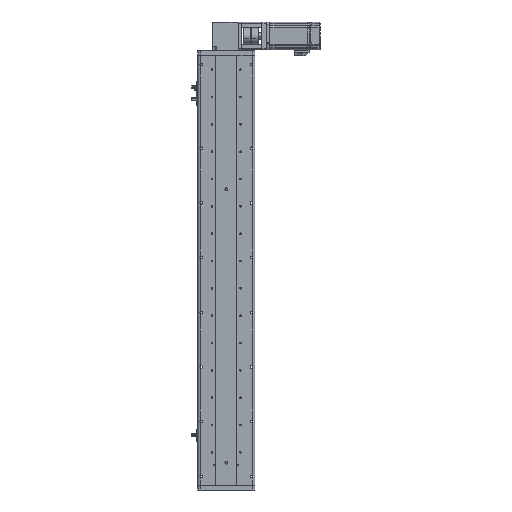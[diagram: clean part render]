
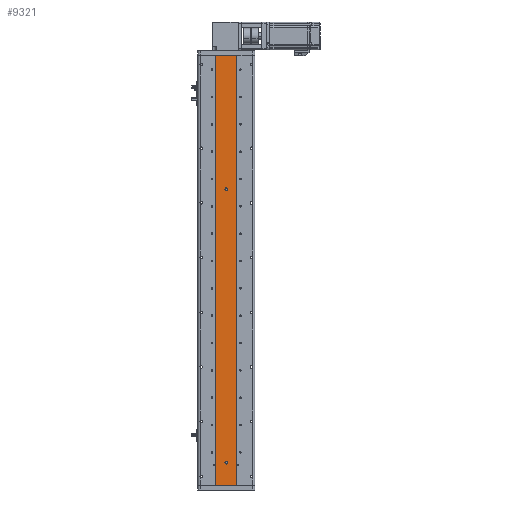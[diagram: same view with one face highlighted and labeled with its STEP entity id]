
A CAD part, front view. The second image highlights one B-rep face of the part: STEP entity #9321.
In plain terms, the highlighted planar face has unit normal (0, -1, 0).
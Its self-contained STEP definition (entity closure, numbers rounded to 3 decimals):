
#603 = ORIENTED_EDGE ( 'NONE', *, *, #25855, .F. ) ;
#1509 = AXIS2_PLACEMENT_3D ( 'NONE', #18668, #51875, #23417 ) ;
#1581 = DIRECTION ( 'NONE',  ( 1., 0., 0. ) ) ;
#2862 = EDGE_LOOP ( 'NONE', ( #54629, #31935 ) ) ;
#3241 = CARTESIAN_POINT ( 'NONE',  ( 23., 1., 472. ) ) ;
#3325 = EDGE_CURVE ( 'NONE', #36847, #43476, #8538, .T. ) ;
#4060 = CARTESIAN_POINT ( 'NONE',  ( 0., 1., 178. ) ) ;
#5237 = ORIENTED_EDGE ( 'NONE', *, *, #44345, .F. ) ;
#6400 = CARTESIAN_POINT ( 'NONE',  ( 23., 1., -472. ) ) ;
#6470 = LINE ( 'NONE', #20627, #56901 ) ;
#6622 = CARTESIAN_POINT ( 'NONE',  ( 0., 1., 178. ) ) ;
#7921 = CARTESIAN_POINT ( 'NONE',  ( 0., 1., -422. ) ) ;
#8538 = LINE ( 'NONE', #22473, #57491 ) ;
#8830 = CARTESIAN_POINT ( 'NONE',  ( 0., 1., 181. ) ) ;
#8851 = DIRECTION ( 'NONE',  ( 0., 0., -1. ) ) ;
#9321 = ADVANCED_FACE ( 'NONE', ( #42243, #37773, #50376 ), #58362, .F. ) ;
#11124 = DIRECTION ( 'NONE',  ( 0., 1., 0. ) ) ;
#11309 = DIRECTION ( 'NONE',  ( 0., 0., -1. ) ) ;
#12604 = EDGE_CURVE ( 'NONE', #47567, #53014, #61092, .T. ) ;
#12682 = DIRECTION ( 'NONE',  ( 0., 0., -1. ) ) ;
#15163 = VERTEX_POINT ( 'NONE', #19772 ) ;
#15949 = ORIENTED_EDGE ( 'NONE', *, *, #54367, .T. ) ;
#16494 = ORIENTED_EDGE ( 'NONE', *, *, #22370, .T. ) ;
#16805 = ORIENTED_EDGE ( 'NONE', *, *, #3325, .F. ) ;
#18668 = CARTESIAN_POINT ( 'NONE',  ( 0., 1., -422. ) ) ;
#19252 = CIRCLE ( 'NONE', #1509, 3. ) ;
#19366 = VERTEX_POINT ( 'NONE', #55547 ) ;
#19772 = CARTESIAN_POINT ( 'NONE',  ( 0., 1., -425. ) ) ;
#20627 = CARTESIAN_POINT ( 'NONE',  ( -23., 1., 472.001 ) ) ;
#22236 = CARTESIAN_POINT ( 'NONE',  ( 23., 1., 472. ) ) ;
#22370 = EDGE_CURVE ( 'NONE', #32020, #60930, #6470, .T. ) ;
#22473 = CARTESIAN_POINT ( 'NONE',  ( 23., 1., 472.001 ) ) ;
#23417 = DIRECTION ( 'NONE',  ( 0., 0., -1. ) ) ;
#23640 = ORIENTED_EDGE ( 'NONE', *, *, #59058, .F. ) ;
#24996 = CIRCLE ( 'NONE', #37040, 3. ) ;
#25855 = EDGE_CURVE ( 'NONE', #15163, #19366, #42164, .T. ) ;
#30426 = DIRECTION ( 'NONE',  ( 0., 0., -1. ) ) ;
#31935 = ORIENTED_EDGE ( 'NONE', *, *, #33197, .F. ) ;
#32020 = VERTEX_POINT ( 'NONE', #53590 ) ;
#32567 = VECTOR ( 'NONE', #50646, 1000. ) ;
#33197 = EDGE_CURVE ( 'NONE', #53014, #47567, #24996, .T. ) ;
#35515 = VECTOR ( 'NONE', #1581, 1000. ) ;
#36589 = AXIS2_PLACEMENT_3D ( 'NONE', #7921, #41038, #12682 ) ;
#36801 = DIRECTION ( 'NONE',  ( 0., 0., -1. ) ) ;
#36847 = VERTEX_POINT ( 'NONE', #3241 ) ;
#37040 = AXIS2_PLACEMENT_3D ( 'NONE', #4060, #37208, #8851 ) ;
#37208 = DIRECTION ( 'NONE',  ( 0., -1., 0. ) ) ;
#37773 = FACE_BOUND ( 'NONE', #43674, .T. ) ;
#39676 = DIRECTION ( 'NONE',  ( 0., -1., 0. ) ) ;
#39854 = CARTESIAN_POINT ( 'NONE',  ( -23., 1., -472. ) ) ;
#41038 = DIRECTION ( 'NONE',  ( 0., -1., 0. ) ) ;
#42164 = CIRCLE ( 'NONE', #36589, 3. ) ;
#42243 = FACE_BOUND ( 'NONE', #2862, .T. ) ;
#43476 = VERTEX_POINT ( 'NONE', #6400 ) ;
#43674 = EDGE_LOOP ( 'NONE', ( #603, #5237 ) ) ;
#43865 = CARTESIAN_POINT ( 'NONE',  ( 23., 1., -472. ) ) ;
#44303 = DIRECTION ( 'NONE',  ( 0., 0., 1. ) ) ;
#44345 = EDGE_CURVE ( 'NONE', #19366, #15163, #19252, .T. ) ;
#45139 = LINE ( 'NONE', #22236, #32567 ) ;
#45663 = AXIS2_PLACEMENT_3D ( 'NONE', #6622, #39676, #11309 ) ;
#46679 = AXIS2_PLACEMENT_3D ( 'NONE', #48839, #11124, #44303 ) ;
#47567 = VERTEX_POINT ( 'NONE', #58539 ) ;
#48839 = CARTESIAN_POINT ( 'NONE',  ( 23., 1., 472.001 ) ) ;
#50376 = FACE_OUTER_BOUND ( 'NONE', #61291, .T. ) ;
#50646 = DIRECTION ( 'NONE',  ( 1., 0., 0. ) ) ;
#51875 = DIRECTION ( 'NONE',  ( 0., -1., 0. ) ) ;
#53014 = VERTEX_POINT ( 'NONE', #8830 ) ;
#53590 = CARTESIAN_POINT ( 'NONE',  ( -23., 1., 472. ) ) ;
#54367 = EDGE_CURVE ( 'NONE', #60930, #43476, #60728, .T. ) ;
#54629 = ORIENTED_EDGE ( 'NONE', *, *, #12604, .F. ) ;
#55547 = CARTESIAN_POINT ( 'NONE',  ( 0., 1., -419. ) ) ;
#56901 = VECTOR ( 'NONE', #30426, 1000. ) ;
#57491 = VECTOR ( 'NONE', #36801, 1000. ) ;
#58362 = PLANE ( 'NONE',  #46679 ) ;
#58539 = CARTESIAN_POINT ( 'NONE',  ( 0., 1., 175. ) ) ;
#59058 = EDGE_CURVE ( 'NONE', #32020, #36847, #45139, .T. ) ;
#60728 = LINE ( 'NONE', #43865, #35515 ) ;
#60930 = VERTEX_POINT ( 'NONE', #39854 ) ;
#61092 = CIRCLE ( 'NONE', #45663, 3. ) ;
#61291 = EDGE_LOOP ( 'NONE', ( #16494, #15949, #16805, #23640 ) ) ;
